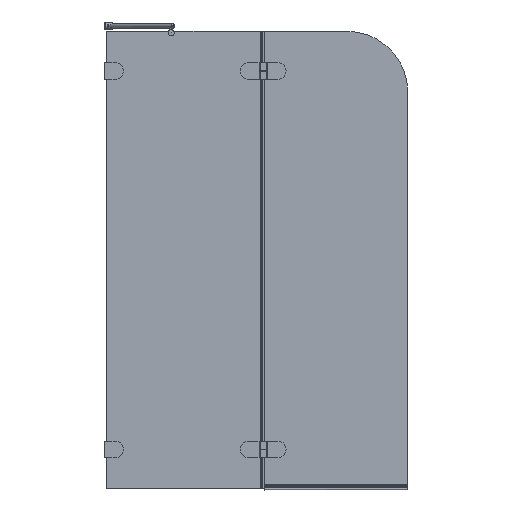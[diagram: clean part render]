
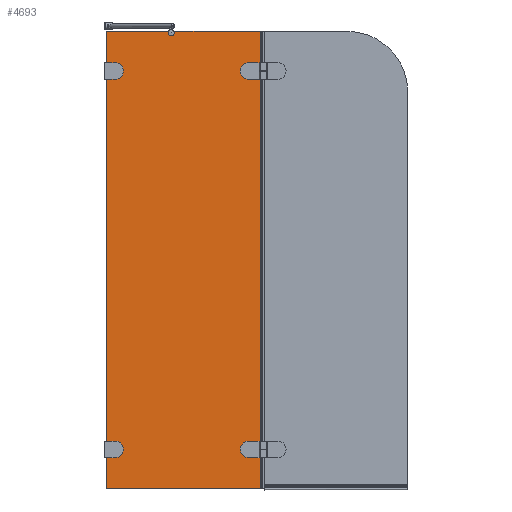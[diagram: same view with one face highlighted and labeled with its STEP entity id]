
A CAD part, front view. The second image highlights one B-rep face of the part: STEP entity #4693.
In plain terms, the highlighted planar face has unit normal (0, -1, 0).
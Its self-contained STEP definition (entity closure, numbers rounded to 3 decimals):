
#104=FACE_BOUND($,#805,.T.);
#105=FACE_BOUND($,#806,.T.);
#106=FACE_BOUND($,#807,.T.);
#107=FACE_BOUND($,#808,.T.);
#108=FACE_BOUND($,#809,.T.);
#137=CIRCLE($,#4802,26.);
#173=CIRCLE($,#4913,26.);
#185=CIRCLE($,#4944,26.);
#206=CIRCLE($,#4989,26.);
#225=CIRCLE($,#5026,10.);
#805=EDGE_LOOP($,(#3576,#3577,#3578,#3579));
#806=EDGE_LOOP($,(#3580,#3581,#3582,#3583));
#807=EDGE_LOOP($,(#3584,#3585,#3586,#3587));
#808=EDGE_LOOP($,(#3588,#3589,#3590,#3591));
#809=EDGE_LOOP($,(#3592,#3593,#3594,#3595,#3596,#3597));
#936=LINE($,#6531,#1372);
#939=LINE($,#6537,#1375);
#943=LINE($,#6547,#1379);
#1086=LINE($,#6915,#1522);
#1089=LINE($,#6921,#1525);
#1093=LINE($,#6931,#1529);
#1114=LINE($,#7004,#1550);
#1119=LINE($,#7018,#1555);
#1122=LINE($,#7023,#1558);
#1144=LINE($,#7178,#1580);
#1149=LINE($,#7192,#1585);
#1152=LINE($,#7197,#1588);
#1182=LINE($,#7754,#1618);
#1183=LINE($,#7756,#1619);
#1184=LINE($,#7758,#1620);
#1185=LINE($,#7760,#1621);
#1186=LINE($,#7761,#1622);
#1372=VECTOR($,#5255,52.);
#1375=VECTOR($,#5260,23.);
#1379=VECTOR($,#5272,23.);
#1522=VECTOR($,#5627,52.);
#1525=VECTOR($,#5632,23.);
#1529=VECTOR($,#5644,23.);
#1550=VECTOR($,#5721,15.);
#1555=VECTOR($,#5734,15.);
#1558=VECTOR($,#5739,52.);
#1580=VECTOR($,#5841,15.);
#1585=VECTOR($,#5854,15.);
#1588=VECTOR($,#5859,52.);
#1618=VECTOR($,#5999,203.474);
#1619=VECTOR($,#6000,1500.);
#1620=VECTOR($,#6001,505.);
#1621=VECTOR($,#6002,1500.);
#1622=VECTOR($,#6003,283.666);
#1804=VERTEX_POINT($,#6528);
#1805=VERTEX_POINT($,#6530);
#1807=VERTEX_POINT($,#6536);
#1809=VERTEX_POINT($,#6542);
#1927=VERTEX_POINT($,#6912);
#1928=VERTEX_POINT($,#6914);
#1930=VERTEX_POINT($,#6920);
#1932=VERTEX_POINT($,#6926);
#1955=VERTEX_POINT($,#7002);
#1956=VERTEX_POINT($,#7003);
#1959=VERTEX_POINT($,#7011);
#1961=VERTEX_POINT($,#7017);
#1994=VERTEX_POINT($,#7176);
#1995=VERTEX_POINT($,#7177);
#1998=VERTEX_POINT($,#7185);
#2000=VERTEX_POINT($,#7191);
#2036=VERTEX_POINT($,#7434);
#2037=VERTEX_POINT($,#7436);
#2054=VERTEX_POINT($,#7753);
#2055=VERTEX_POINT($,#7755);
#2056=VERTEX_POINT($,#7757);
#2057=VERTEX_POINT($,#7759);
#2244=EDGE_CURVE($,#1805,#1804,#936,.T.);
#2247=EDGE_CURVE($,#1807,#1805,#939,.T.);
#2250=EDGE_CURVE($,#1809,#1807,#137,.T.);
#2253=EDGE_CURVE($,#1804,#1809,#943,.T.);
#2430=EDGE_CURVE($,#1928,#1927,#1086,.T.);
#2433=EDGE_CURVE($,#1930,#1928,#1089,.T.);
#2436=EDGE_CURVE($,#1932,#1930,#173,.T.);
#2439=EDGE_CURVE($,#1927,#1932,#1093,.T.);
#2471=EDGE_CURVE($,#1955,#1956,#1114,.T.);
#2475=EDGE_CURVE($,#1956,#1959,#185,.T.);
#2478=EDGE_CURVE($,#1959,#1961,#1119,.T.);
#2481=EDGE_CURVE($,#1961,#1955,#1122,.T.);
#2524=EDGE_CURVE($,#1994,#1995,#1144,.T.);
#2528=EDGE_CURVE($,#1995,#1998,#206,.T.);
#2531=EDGE_CURVE($,#1998,#2000,#1149,.T.);
#2534=EDGE_CURVE($,#2000,#1994,#1152,.T.);
#2580=EDGE_CURVE($,#2037,#2036,#225,.T.);
#2604=EDGE_CURVE($,#2036,#2054,#1182,.T.);
#2605=EDGE_CURVE($,#2054,#2055,#1183,.T.);
#2606=EDGE_CURVE($,#2056,#2055,#1184,.T.);
#2607=EDGE_CURVE($,#2057,#2056,#1185,.T.);
#2608=EDGE_CURVE($,#2057,#2037,#1186,.T.);
#3576=ORIENTED_EDGE($,*,*,#2244,.T.);
#3577=ORIENTED_EDGE($,*,*,#2253,.T.);
#3578=ORIENTED_EDGE($,*,*,#2250,.T.);
#3579=ORIENTED_EDGE($,*,*,#2247,.T.);
#3580=ORIENTED_EDGE($,*,*,#2430,.T.);
#3581=ORIENTED_EDGE($,*,*,#2439,.T.);
#3582=ORIENTED_EDGE($,*,*,#2436,.T.);
#3583=ORIENTED_EDGE($,*,*,#2433,.T.);
#3584=ORIENTED_EDGE($,*,*,#2471,.T.);
#3585=ORIENTED_EDGE($,*,*,#2475,.T.);
#3586=ORIENTED_EDGE($,*,*,#2478,.T.);
#3587=ORIENTED_EDGE($,*,*,#2481,.T.);
#3588=ORIENTED_EDGE($,*,*,#2524,.T.);
#3589=ORIENTED_EDGE($,*,*,#2528,.T.);
#3590=ORIENTED_EDGE($,*,*,#2531,.T.);
#3591=ORIENTED_EDGE($,*,*,#2534,.T.);
#3592=ORIENTED_EDGE($,*,*,#2580,.T.);
#3593=ORIENTED_EDGE($,*,*,#2604,.T.);
#3594=ORIENTED_EDGE($,*,*,#2605,.T.);
#3595=ORIENTED_EDGE($,*,*,#2606,.F.);
#3596=ORIENTED_EDGE($,*,*,#2607,.F.);
#3597=ORIENTED_EDGE($,*,*,#2608,.T.);
#4224=PLANE($,#5047);
#4693=ADVANCED_FACE($,(#104,#105,#106,#107,#108),#4224,.T.);
#4802=AXIS2_PLACEMENT_3D($,#6543,#5266,#5267);
#4913=AXIS2_PLACEMENT_3D($,#6927,#5638,#5639);
#4944=AXIS2_PLACEMENT_3D($,#7012,#5727,#5728);
#4989=AXIS2_PLACEMENT_3D($,#7186,#5847,#5848);
#5026=AXIS2_PLACEMENT_3D($,#7437,#5948,#5949);
#5047=AXIS2_PLACEMENT_3D($,#7752,#5997,#5998);
#5255=DIRECTION($,(0.,0.,-1.));
#5260=DIRECTION($,(1.,0.,0.));
#5266=DIRECTION('center_axis',(0.,1.,0.));
#5267=DIRECTION('ref_axis',(0.,0.,
-1.));
#5272=DIRECTION($,(-1.,0.,0.));
#5627=DIRECTION($,(0.,0.,-1.));
#5632=DIRECTION($,(1.,0.,0.));
#5638=DIRECTION('center_axis',(0.,1.,0.));
#5639=DIRECTION('ref_axis',(0.,0.,
-1.));
#5644=DIRECTION($,(-1.,0.,0.));
#5721=DIRECTION($,(1.,0.,0.));
#5727=DIRECTION('center_axis',(0.,1.,0.));
#5728=DIRECTION('ref_axis',(0.,0.,
1.));
#5734=DIRECTION($,(-1.,0.,0.));
#5739=DIRECTION($,(0.,0.,1.));
#5841=DIRECTION($,(1.,0.,0.));
#5847=DIRECTION('center_axis',(0.,1.,0.));
#5848=DIRECTION('ref_axis',(0.,0.,
1.));
#5854=DIRECTION($,(-1.,0.,0.));
#5859=DIRECTION($,(0.,0.,1.));
#5948=DIRECTION('center_axis',(0.,1.,0.));
#5949=DIRECTION('ref_axis',(-0.597,0.,0.802));
#5997=DIRECTION('center_axis',(0.,-1.,0.));
#5998=DIRECTION('ref_axis',(-1.,0.,0.));
#5999=DIRECTION($,(-1.,0.,0.));
#6000=DIRECTION($,(0.,0.,-1.));
#6001=DIRECTION($,(-1.,0.,0.));
#6002=DIRECTION($,(0.,0.,-1.));
#6003=DIRECTION($,(-1.,0.,0.));
#6528=CARTESIAN_POINT('',(347.733,-34.044,1369.944));
#6530=CARTESIAN_POINT('',(347.733,-34.044,1421.944));
#6531=CARTESIAN_POINT($,(347.733,-34.044,1473.944));
#6536=CARTESIAN_POINT('',(324.733,-34.044,1421.944));
#6537=CARTESIAN_POINT($,(346.733,-34.044,1421.944));
#6542=CARTESIAN_POINT('',(324.733,-34.044,1369.944));
#6543=CARTESIAN_POINT('Origin',(324.733,-34.044,1395.944));
#6547=CARTESIAN_POINT($,(358.233,-34.044,1369.944));
#6912=CARTESIAN_POINT('',(347.733,-34.044,129.944));
#6914=CARTESIAN_POINT('',(347.733,-34.044,181.944));
#6915=CARTESIAN_POINT($,(347.733,-34.044,853.944));
#6920=CARTESIAN_POINT('',(324.733,-34.044,181.944));
#6921=CARTESIAN_POINT($,(346.733,-34.044,181.944));
#6926=CARTESIAN_POINT('',(324.733,-34.044,129.944));
#6927=CARTESIAN_POINT('Origin',(324.733,-34.044,155.944));
#6931=CARTESIAN_POINT($,(358.233,-34.044,129.944));
#7002=CARTESIAN_POINT('',(-127.267,-34.044,181.944));
#7003=CARTESIAN_POINT('',(-112.267,-34.044,181.944));
#7004=CARTESIAN_POINT($,(128.233,-34.044,181.944));
#7011=CARTESIAN_POINT('',(-112.267,-34.044,129.944));
#7012=CARTESIAN_POINT('Origin',(-112.267,-34.044,155.944));
#7017=CARTESIAN_POINT('',(-127.267,-34.044,129.944));
#7018=CARTESIAN_POINT($,(120.733,-34.044,129.944));
#7023=CARTESIAN_POINT($,(-127.267,-34.044,853.944));
#7176=CARTESIAN_POINT('',(-127.267,-34.044,1421.944));
#7177=CARTESIAN_POINT('',(-112.267,-34.044,1421.944));
#7178=CARTESIAN_POINT($,(128.233,-34.044,1421.944));
#7185=CARTESIAN_POINT('',(-112.267,-34.044,1369.944));
#7186=CARTESIAN_POINT('Origin',(-112.267,-34.044,1395.944));
#7191=CARTESIAN_POINT('',(-127.267,-34.044,1369.944));
#7192=CARTESIAN_POINT($,(120.733,-34.044,1369.944));
#7197=CARTESIAN_POINT($,(-127.267,-34.044,1473.944));
#7434=CARTESIAN_POINT('',(62.207,-34.044,1525.944));
#7436=CARTESIAN_POINT('',(80.068,-34.044,1525.944));
#7437=CARTESIAN_POINT('Origin',(71.137,-34.044,1521.444));
#7752=CARTESIAN_POINT('Origin',(368.733,-34.044,1525.944));
#7753=CARTESIAN_POINT('',(-141.267,-34.044,1525.944));
#7754=CARTESIAN_POINT($,(368.733,-34.044,1525.944));
#7755=CARTESIAN_POINT('',(-141.267,-34.044,25.944));
#7756=CARTESIAN_POINT($,(-141.267,-34.044,1525.944));
#7757=CARTESIAN_POINT('',(363.733,-34.044,25.944));
#7758=CARTESIAN_POINT($,(368.733,-34.044,25.944));
#7759=CARTESIAN_POINT('',(363.733,-34.044,1525.944));
#7760=CARTESIAN_POINT($,(363.733,-34.044,1525.944));
#7761=CARTESIAN_POINT($,(368.733,-34.044,1525.944));
